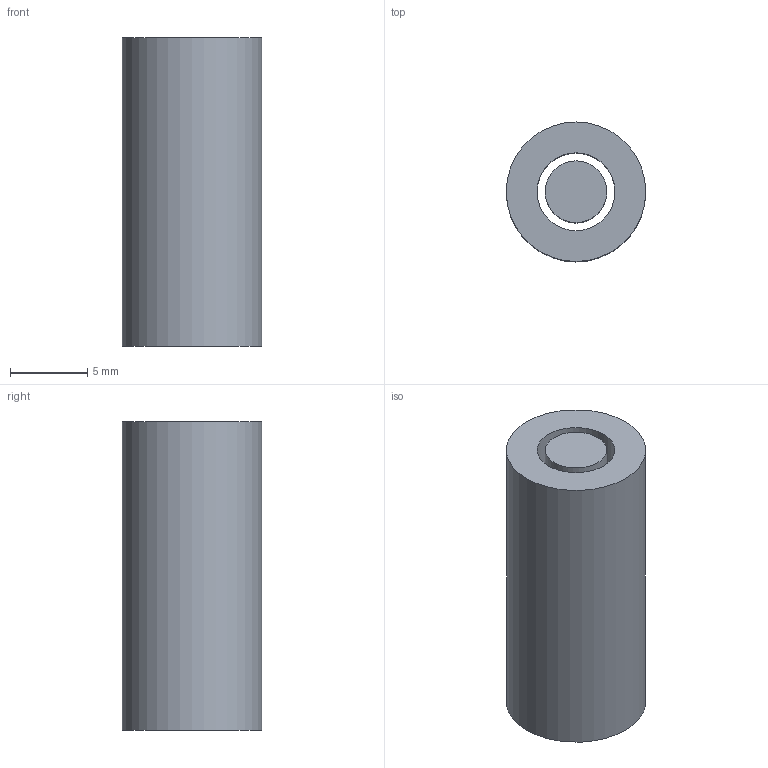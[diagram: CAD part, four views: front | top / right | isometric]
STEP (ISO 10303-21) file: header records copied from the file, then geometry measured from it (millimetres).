
FILE_DESCRIPTION(('Open CASCADE Model'),'2;1');
FILE_NAME('Open CASCADE Shape Model','2026-10-28T05:16:29',('Author'),( 'Open CASCADE'),'Open CASCADE STEP processor 7.8','Open CASCADE 7.8' ,'Unknown');
FILE_SCHEMA(('AUTOMOTIVE_DESIGN { 1 0 10303 214 1 1 1 1 }'));
Length unit declared in the file: millimetre
Products named in the file (3): radius-2.525mm; chamber-body; reference-probe
Assembly tree (2 placements, depth 2):
  radius-2.525mm
    chamber-body
    reference-probe
Bounding box: 9.05 x 9.05 x 20 mm (x, y, z)
Volume: 1137.3 mm3; surface area: 1251 mm2
Topology: 2 solids, 2 shells, 7 faces, 9 edges, 6 vertices
Faces by surface type: plane 4, cylinder 3
Full cylindrical faces by diameter (mm): 4 x1, 5.05 x1, 9.05 x1
Entity records: 332 total; most frequent: DIRECTION 53, CARTESIAN_POINT 43, ORIENTED_EDGE 18, PCURVE 18, DEFINITIONAL_REPRESENTATION 18, AXIS2_PLACEMENT_3D 16, LINE 15, VECTOR 15
